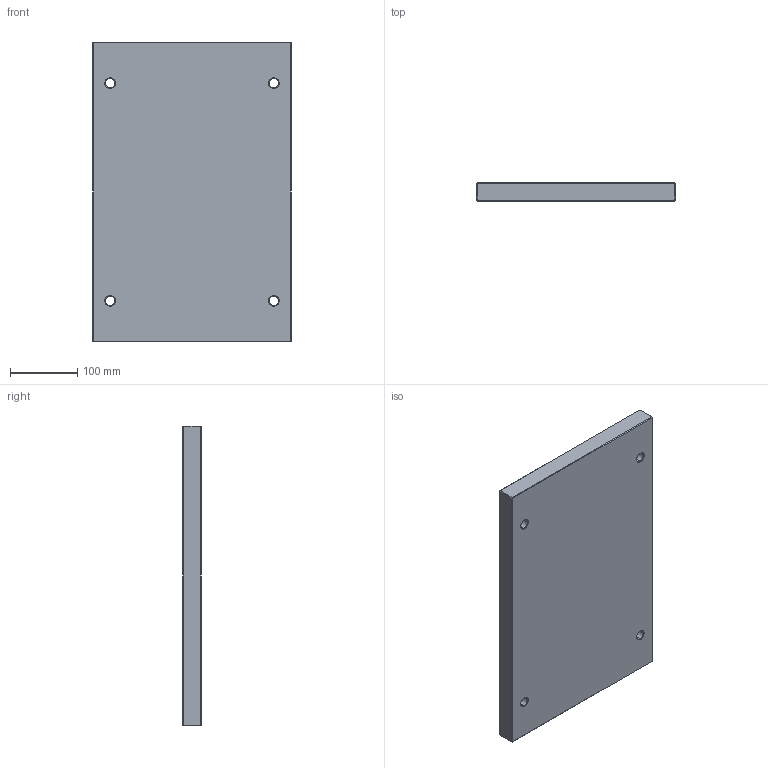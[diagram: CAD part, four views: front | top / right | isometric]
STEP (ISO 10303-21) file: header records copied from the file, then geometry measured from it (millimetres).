
FILE_DESCRIPTION (( 'STEP AP214' ), '1' );
FILE_NAME ('PBAS-296x446x27.STEP', '2020-03-24T15:37:09', ( 'August' ), ( '' ), 'SwSTEP 2.0', 'SolidWorks 2018', '' );
FILE_SCHEMA (( 'AUTOMOTIVE_DESIGN' ));
Length unit declared in the file: millimetre
Products named in the file (1): PBAS-296x446x27
Bounding box: 296 x 27 x 446 mm (x, y, z)
Volume: 3537079.6 mm3; surface area: 306629.4 mm2
Topology: 1 solids, 1 shells, 62 faces, 128 edges, 72 vertices
Faces by surface type: plane 30, cone 16, cylinder 16
Entity records: 1650 total; most frequent: DIRECTION 302, CARTESIAN_POINT 263, ORIENTED_EDGE 256, EDGE_CURVE 128, AXIS2_PLACEMENT_3D 111, VECTOR 80, LINE 80, EDGE_LOOP 74
